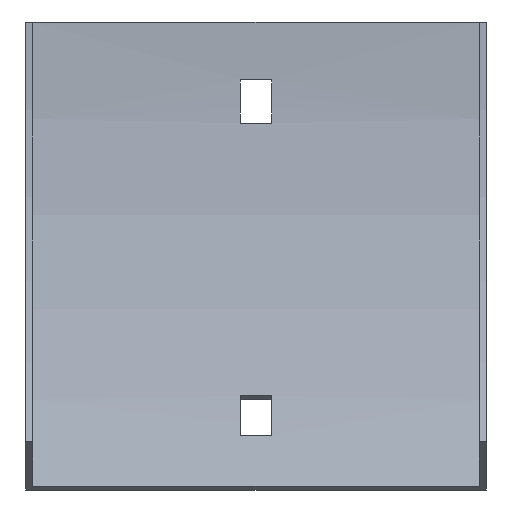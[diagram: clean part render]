
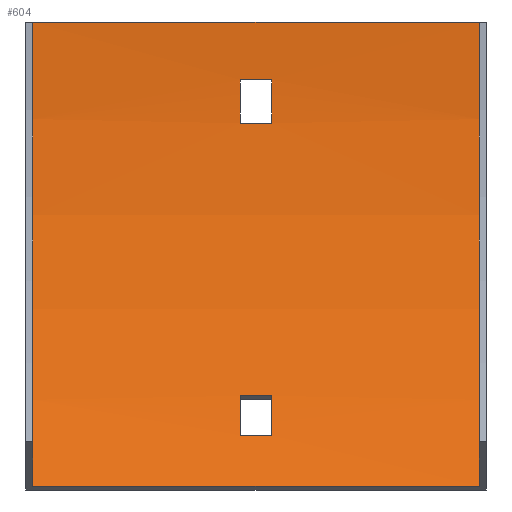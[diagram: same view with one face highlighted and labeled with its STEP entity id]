
A CAD part, front view. The second image highlights one B-rep face of the part: STEP entity #604.
In plain terms, the highlighted cylindrical face has radius 192.5 mm (diameter 385 mm), a partial arc.
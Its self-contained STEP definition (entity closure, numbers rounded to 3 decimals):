
#4 = VECTOR ( 'NONE', #143, 1000. ) ;
#8 = LINE ( 'NONE', #390, #125 ) ;
#12 = ORIENTED_EDGE ( 'NONE', *, *, #510, .T. ) ;
#25 = ORIENTED_EDGE ( 'NONE', *, *, #167, .T. ) ;
#32 = EDGE_CURVE ( 'NONE', #95, #171, #324, .T. ) ;
#37 = LINE ( 'NONE', #39, #4 ) ;
#39 = CARTESIAN_POINT ( 'NONE',  ( 46.25, -1.5, 0. ) ) ;
#41 = CARTESIAN_POINT ( 'NONE',  ( -3.25, -21.614, -85.671 ) ) ;
#47 = EDGE_CURVE ( 'NONE', #469, #511, #547, .T. ) ;
#52 = ORIENTED_EDGE ( 'NONE', *, *, #274, .T. ) ;
#61 = DIRECTION ( 'NONE',  ( -1., 0., 0. ) ) ;
#65 = EDGE_CURVE ( 'NONE', #516, #258, #224, .T. ) ;
#74 = DIRECTION ( 'NONE',  ( -1., 0., 0. ) ) ;
#75 = AXIS2_PLACEMENT_3D ( 'NONE', #383, #290, #246 ) ;
#85 = VERTEX_POINT ( 'NONE', #512 ) ;
#90 = EDGE_CURVE ( 'NONE', #511, #301, #37, .T. ) ;
#95 = VERTEX_POINT ( 'NONE', #179 ) ;
#96 = CARTESIAN_POINT ( 'NONE',  ( -3.25, -194., 0. ) ) ;
#103 = CARTESIAN_POINT ( 'NONE',  ( 3.25, -2.649, -21. ) ) ;
#104 = AXIS2_PLACEMENT_3D ( 'NONE', #551, #74, #128 ) ;
#110 = CARTESIAN_POINT ( 'NONE',  ( 46.25, -27.29, -96.25 ) ) ;
#111 = ORIENTED_EDGE ( 'NONE', *, *, #47, .T. ) ;
#113 = DIRECTION ( 'NONE',  ( 1., 0., 0. ) ) ;
#117 = AXIS2_PLACEMENT_3D ( 'NONE', #347, #61, #576 ) ;
#125 = VECTOR ( 'NONE', #293, 1000. ) ;
#128 = DIRECTION ( 'NONE',  ( 0., 0., 1. ) ) ;
#139 = ORIENTED_EDGE ( 'NONE', *, *, #377, .F. ) ;
#140 = CARTESIAN_POINT ( 'NONE',  ( 47.75, -17.785, -77.489 ) ) ;
#143 = DIRECTION ( 'NONE',  ( -1., 0., 0. ) ) ;
#145 = VECTOR ( 'NONE', #169, 1000. ) ;
#149 = CARTESIAN_POINT ( 'NONE',  ( 46.25, -1.5, 0. ) ) ;
#151 = FACE_BOUND ( 'NONE', #596, .T. ) ;
#155 = CARTESIAN_POINT ( 'NONE',  ( 3.25, -21.614, -85.671 ) ) ;
#162 = VERTEX_POINT ( 'NONE', #223 ) ;
#167 = EDGE_CURVE ( 'NONE', #162, #587, #276, .T. ) ;
#169 = DIRECTION ( 'NONE',  ( -1., 0., 0. ) ) ;
#171 = VERTEX_POINT ( 'NONE', #376 ) ;
#179 = CARTESIAN_POINT ( 'NONE',  ( -3.25, -1.874, -12. ) ) ;
#189 = DIRECTION ( 'NONE',  ( 1., 0., 0. ) ) ;
#191 = VERTEX_POINT ( 'NONE', #41 ) ;
#198 = CARTESIAN_POINT ( 'NONE',  ( -46.25, -1.5, 0. ) ) ;
#201 = FACE_OUTER_BOUND ( 'NONE', #242, .T. ) ;
#223 = CARTESIAN_POINT ( 'NONE',  ( -3.25, -17.785, -77.489 ) ) ;
#224 = CIRCLE ( 'NONE', #346, 192.5 ) ;
#230 = EDGE_CURVE ( 'NONE', #85, #301, #456, .T. ) ;
#233 = CARTESIAN_POINT ( 'NONE',  ( 3.25, -194., 0. ) ) ;
#242 = EDGE_LOOP ( 'NONE', ( #568, #423, #111, #504 ) ) ;
#246 = DIRECTION ( 'NONE',  ( 0., 0., 1. ) ) ;
#253 = VECTOR ( 'NONE', #545, 1000. ) ;
#258 = VERTEX_POINT ( 'NONE', #572 ) ;
#267 = EDGE_CURVE ( 'NONE', #491, #191, #337, .T. ) ;
#274 = EDGE_CURVE ( 'NONE', #191, #162, #477, .T. ) ;
#276 = LINE ( 'NONE', #140, #467 ) ;
#282 = AXIS2_PLACEMENT_3D ( 'NONE', #431, #335, #533 ) ;
#290 = DIRECTION ( 'NONE',  ( -1., 0., 0. ) ) ;
#293 = DIRECTION ( 'NONE',  ( -1., 0., 0. ) ) ;
#297 = DIRECTION ( 'NONE',  ( 0., 0., -1. ) ) ;
#301 = VERTEX_POINT ( 'NONE', #198 ) ;
#302 = LINE ( 'NONE', #447, #253 ) ;
#324 = CIRCLE ( 'NONE', #104, 192.5 ) ;
#325 = ORIENTED_EDGE ( 'NONE', *, *, #32, .F. ) ;
#335 = DIRECTION ( 'NONE',  ( 1., 0., 0. ) ) ;
#337 = LINE ( 'NONE', #386, #519 ) ;
#344 = CIRCLE ( 'NONE', #75, 192.5 ) ;
#346 = AXIS2_PLACEMENT_3D ( 'NONE', #233, #454, #461 ) ;
#347 = CARTESIAN_POINT ( 'NONE',  ( 47.75, -194., 0. ) ) ;
#376 = CARTESIAN_POINT ( 'NONE',  ( -3.25, -2.649, -21. ) ) ;
#377 = EDGE_CURVE ( 'NONE', #171, #516, #302, .T. ) ;
#381 = EDGE_CURVE ( 'NONE', #469, #85, #539, .T. ) ;
#383 = CARTESIAN_POINT ( 'NONE',  ( 3.25, -194., 0. ) ) ;
#386 = CARTESIAN_POINT ( 'NONE',  ( 47.75, -21.614, -85.671 ) ) ;
#390 = CARTESIAN_POINT ( 'NONE',  ( 47.75, -1.874, -12. ) ) ;
#423 = ORIENTED_EDGE ( 'NONE', *, *, #381, .F. ) ;
#431 = CARTESIAN_POINT ( 'NONE',  ( -46.25, -194., 0. ) ) ;
#433 = EDGE_LOOP ( 'NONE', ( #325, #606, #451, #139 ) ) ;
#447 = CARTESIAN_POINT ( 'NONE',  ( 47.75, -2.649, -21. ) ) ;
#451 = ORIENTED_EDGE ( 'NONE', *, *, #65, .F. ) ;
#454 = DIRECTION ( 'NONE',  ( 1., 0., 0. ) ) ;
#456 = CIRCLE ( 'NONE', #282, 192.5 ) ;
#461 = DIRECTION ( 'NONE',  ( 0., 0., -1. ) ) ;
#467 = VECTOR ( 'NONE', #189, 1000. ) ;
#469 = VERTEX_POINT ( 'NONE', #110 ) ;
#471 = CARTESIAN_POINT ( 'NONE',  ( 3.25, -17.785, -77.489 ) ) ;
#477 = CIRCLE ( 'NONE', #589, 192.5 ) ;
#480 = CYLINDRICAL_SURFACE ( 'NONE', #117, 192.5 ) ;
#491 = VERTEX_POINT ( 'NONE', #155 ) ;
#496 = CARTESIAN_POINT ( 'NONE',  ( 46.25, -27.29, -96.25 ) ) ;
#504 = ORIENTED_EDGE ( 'NONE', *, *, #90, .T. ) ;
#510 = EDGE_CURVE ( 'NONE', #587, #491, #344, .T. ) ;
#511 = VERTEX_POINT ( 'NONE', #149 ) ;
#512 = CARTESIAN_POINT ( 'NONE',  ( -46.25, -27.29, -96.25 ) ) ;
#516 = VERTEX_POINT ( 'NONE', #103 ) ;
#519 = VECTOR ( 'NONE', #526, 1000. ) ;
#521 = AXIS2_PLACEMENT_3D ( 'NONE', #537, #113, #560 ) ;
#526 = DIRECTION ( 'NONE',  ( -1., 0., 0. ) ) ;
#533 = DIRECTION ( 'NONE',  ( 0., 0., 1. ) ) ;
#537 = CARTESIAN_POINT ( 'NONE',  ( 46.25, -194., 0. ) ) ;
#539 = LINE ( 'NONE', #496, #145 ) ;
#545 = DIRECTION ( 'NONE',  ( 1., 0., 0. ) ) ;
#547 = CIRCLE ( 'NONE', #521, 192.5 ) ;
#551 = CARTESIAN_POINT ( 'NONE',  ( -3.25, -194., 0. ) ) ;
#556 = EDGE_CURVE ( 'NONE', #258, #95, #8, .T. ) ;
#557 = ORIENTED_EDGE ( 'NONE', *, *, #267, .T. ) ;
#560 = DIRECTION ( 'NONE',  ( 0., 0., 1. ) ) ;
#568 = ORIENTED_EDGE ( 'NONE', *, *, #230, .F. ) ;
#569 = DIRECTION ( 'NONE',  ( 1., 0., 0. ) ) ;
#572 = CARTESIAN_POINT ( 'NONE',  ( 3.25, -1.874, -12. ) ) ;
#573 = FACE_BOUND ( 'NONE', #433, .T. ) ;
#576 = DIRECTION ( 'NONE',  ( 0., 0., 1. ) ) ;
#587 = VERTEX_POINT ( 'NONE', #471 ) ;
#589 = AXIS2_PLACEMENT_3D ( 'NONE', #96, #569, #297 ) ;
#596 = EDGE_LOOP ( 'NONE', ( #557, #52, #25, #12 ) ) ;
#604 = ADVANCED_FACE ( 'NONE', ( #573, #201, #151 ), #480, .F. ) ;
#606 = ORIENTED_EDGE ( 'NONE', *, *, #556, .F. ) ;
